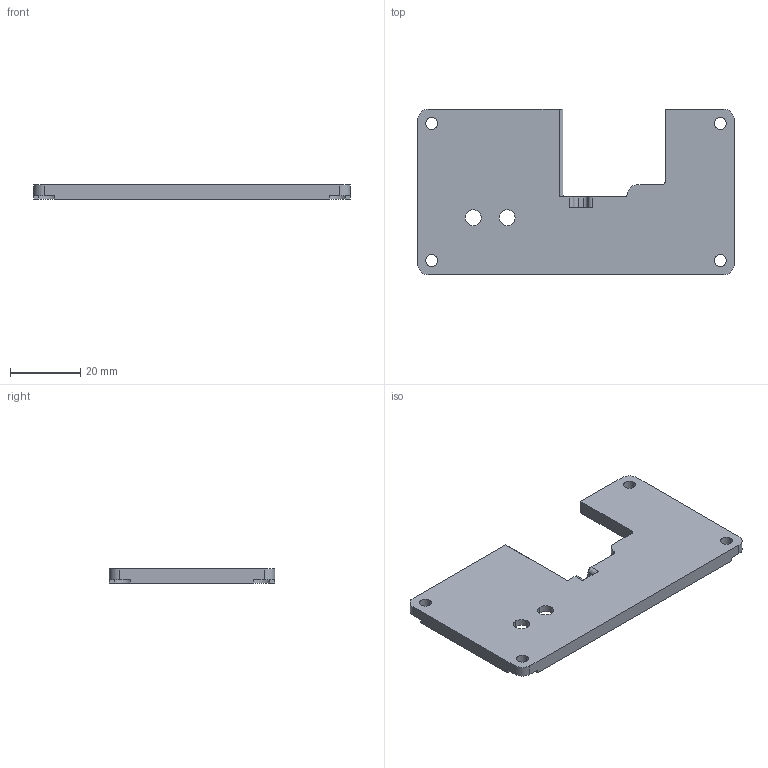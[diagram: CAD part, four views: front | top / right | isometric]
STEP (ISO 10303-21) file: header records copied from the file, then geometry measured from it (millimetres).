
FILE_DESCRIPTION((''),'2;1');
FILE_NAME('_000_9990001','2024-10-21T08:37:48',('Administrator'),(''),'CREO PARAMETRIC BY PTC INC, 2024063','CREO PARAMETRIC BY PTC INC, 2024063','');
FILE_SCHEMA(('CONFIG_CONTROL_DESIGN'));
Length unit declared in the file: millimetre
Products named in the file (1): _000_9990001
Bounding box: 90 x 47 x 4 mm (x, y, z)
Volume: 13386.3 mm3; surface area: 8471.1 mm2
Topology: 1 solids, 1 shells, 118 faces, 309 edges, 194 vertices
Faces by surface type: cylinder 56, plane 44, torus 10, cone 4, bspline 4
Entity records: 4052 total; most frequent: CARTESIAN_POINT 1023, DIRECTION 646, ORIENTED_EDGE 618, EDGE_CURVE 309, AXIS2_PLACEMENT_3D 233, VERTEX_POINT 194, VECTOR 180, LINE 180
